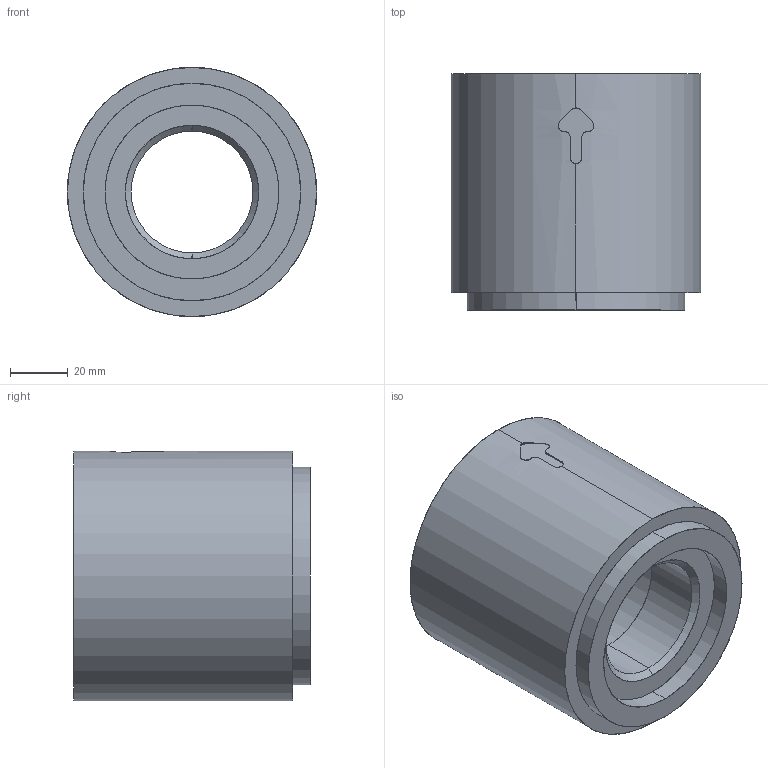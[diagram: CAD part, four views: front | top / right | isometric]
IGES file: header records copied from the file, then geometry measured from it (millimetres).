
Start section: SolidWorks IGES file using analytic representation for surfaces
Bounding box: 86 x 81.5 x 86 mm (x, y, z)
Surface area: 44090.3 mm2 (no closed solid volume)
Topology: 0 solids, 0 shells, 34 faces, 1036 edges, 1036 vertices
Faces by surface type: revolution 21, bspline 13
